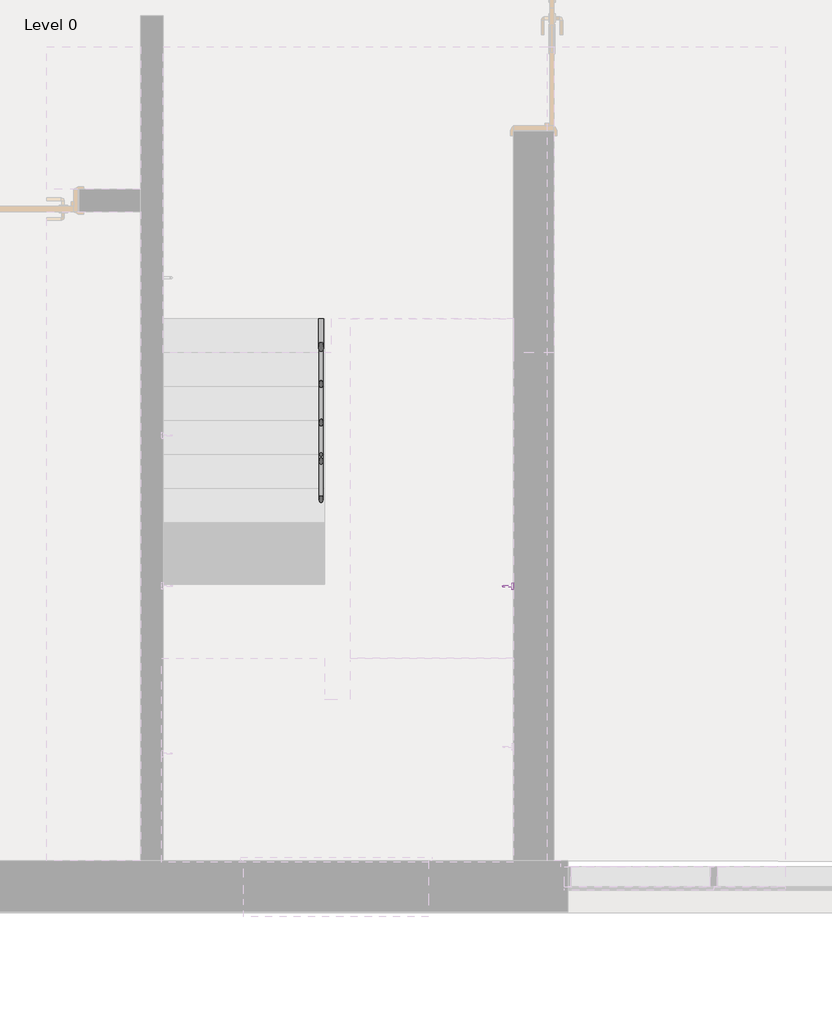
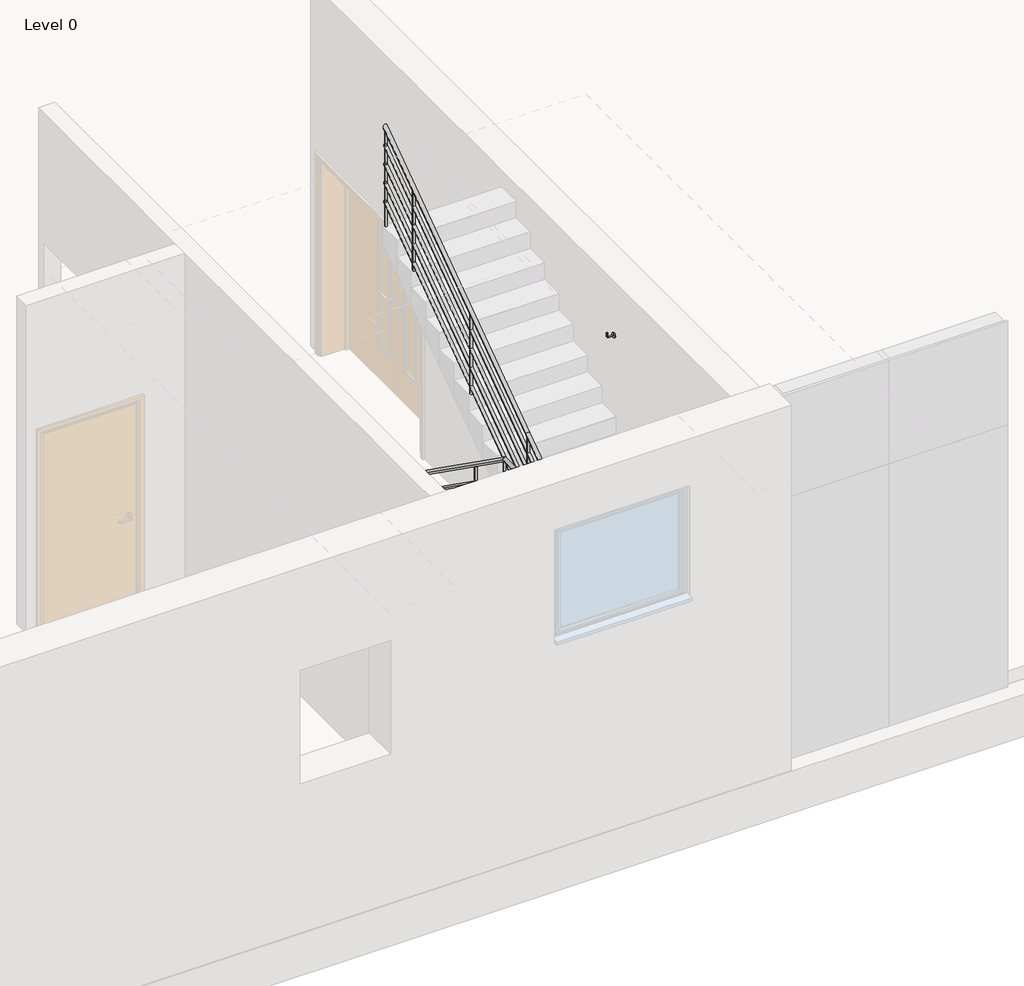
# One storey, part 11 of 14: 1 proxy, 1 railing.
"""IFC4 building model written with IfcOpenShell, lengths in millimetres."""

from ifc_helpers import new_model, si_unit, point, frame, frame_2d, origin, place, context, project, spatial, circle_curve, ellipse_curve, trimmed, segment, composite_curve, outline, extrude, transform, mapped, element, save
from ifc_brep_helpers import plane_surface, cylinder_surface, advanced_brep
from components import support_metal_circular_support_metal_circular_016e83f0

model = new_model("IFC4")

# Units and contexts
model_context = context("Model", 3, world=origin())
ifc_project = project(units=[si_unit("LENGTHUNIT", "METRE", prefix="MILLI")], contexts=[model_context])

# Site, building, storey
site = spatial("IfcSite", under=ifc_project)
building = spatial("IfcBuilding", under=site)
storey = spatial("IfcBuildingStorey", under=building, Name="Level 0", Elevation=0.0)

# Proxy
placement = place(None, origin())
support_metal_circular_support_metal_circular_shape = support_metal_circular_support_metal_circular_016e83f0(model_context)
element("IfcBuildingElementProxy", 1, Name="Support - Metal - Circular : Support - Metal - Circular", ObjectType="Support - Metal - Circular : Support - Metal - Circular", at=placement, inside=storey, context=model_context, shape_type="MappedRepresentation", body=[
    mapped(support_metal_circular_support_metal_circular_shape, transform((7761.8000023, 2330.7111848, 3385.714432), x_axis=(0.0, -1.0, 0.0), y_axis=(1.0, 0.0, 0.0), z_axis=(0.0, 0.0, 1.0))),
])

# Railing
element("IfcRailing", 2, ObjectType="900mm_Pipe", at=placement, inside=storey, context=model_context, shape_type="SolidModel", body=[
    advanced_brep(
    [(6401.8000024, 4300.0, 1052.7548977), (6441.8000024, 4300.0, 1052.7548977), (6401.8000024, 1793.6287019, 2830.0), (6441.8000024, 1793.6287019, 2830.0), (6401.8000024, 1454.6, 2830.0), (6441.8000024, 1494.6, 2830.0), (6682.6000025, 1454.6, 2830.0), (6642.6000025, 1494.6, 2830.0), (6682.6000025, 1556.3712981, 2830.0), (6642.6000025, 1556.3712981, 2830.0), (6682.6000025, 1811.5685755, 3010.9580695), (6642.6000025, 1811.5685755, 3010.9580695), (6682.6000025, 4300.0, 4775.4821704), (6642.6000025, 4300.0, 4775.4821704)],
    [
        (0, 1, ellipse_curve(frame((6421.8000024, 4300.0, 1052.7548977), z_axis=(0.0, 1.0, 0.0), x_axis=(0.0, 0.0, -1.0)), 24.5178296, 20.0)),
        (1, 0, ellipse_curve(frame((6421.8000024, 4300.0, 1052.7548977), z_axis=(0.0, 1.0, 0.0), x_axis=(0.0, 0.0, -1.0)), 24.5178296, 20.0)),
        (0, 2),
        (2, 3, ellipse_curve(frame((6421.8000024, 1793.6287019, 2830.0), z_axis=(0.0, 0.9528202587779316, -0.30353509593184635), x_axis=(0.0, -0.30353509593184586, -0.952820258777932)), 20.9903178, 20.0)),
        (3, 1),
        (3, 2, ellipse_curve(frame((6421.8000024, 1793.6287019, 2830.0), z_axis=(0.0, 0.9528202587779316, -0.30353509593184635), x_axis=(0.0, -0.30353509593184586, -0.952820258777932)), 20.9903178, 20.0)),
        (2, 4),
        (4, 5, ellipse_curve(frame((6421.8000024, 1474.6, 2830.0), z_axis=(-0.7071067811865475, 0.7071067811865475, 0.0), x_axis=(0.7071067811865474, 0.7071067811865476, 0.0)), 28.2842712, 20.0)),
        (5, 3),
        (5, 4, ellipse_curve(frame((6421.8000024, 1474.6, 2830.0), z_axis=(-0.7071067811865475, 0.7071067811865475, 0.0), x_axis=(0.7071067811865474, 0.7071067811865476, 0.0)), 28.2842712, 20.0)),
        (4, 6),
        (6, 7, ellipse_curve(frame((6662.6000025, 1474.6, 2830.0), z_axis=(-0.7071067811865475, -0.7071067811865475, 0.0), x_axis=(-0.7071067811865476, 0.7071067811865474, 0.0)), 28.2842712, 20.0)),
        (7, 5),
        (7, 6, ellipse_curve(frame((6662.6000025, 1474.6, 2830.0), z_axis=(-0.7071067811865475, -0.7071067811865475, 0.0), x_axis=(-0.7071067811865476, 0.7071067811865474, 0.0)), 28.2842712, 20.0)),
        (6, 8),
        (8, 9, ellipse_curve(frame((6662.6000025, 1556.3712981, 2830.0), z_axis=(0.0, -0.9528202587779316, -0.30353509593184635), x_axis=(0.0, -0.3035350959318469, 0.9528202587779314)), 20.9903178, 20.0)),
        (9, 7),
        (9, 8, ellipse_curve(frame((6662.6000025, 1556.3712981, 2830.0), z_axis=(0.0, -0.9528202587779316, -0.30353509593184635), x_axis=(0.0, -0.3035350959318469, 0.9528202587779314)), 20.9903178, 20.0)),
        (8, 10),
        (10, 11, circle_curve(frame((6662.6000025, 1811.5685755, 3010.9580695), z_axis=(0.0, -0.8157328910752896, -0.5784287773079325), x_axis=(-1.0, 0.0, 0.0)), 20.0)),
        (11, 9),
        (11, 10, circle_curve(frame((6662.6000025, 1811.5685755, 3010.9580695), z_axis=(0.0, -0.8157328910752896, -0.5784287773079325), x_axis=(-1.0, 0.0, 0.0)), 20.0)),
        (12, 13, ellipse_curve(frame((6662.6000025, 4300.0, 4775.4821704), z_axis=(0.0, 1.0, 0.0), x_axis=(0.0, 0.0, -1.0)), 24.5178296, 20.0)),
        (13, 12, ellipse_curve(frame((6662.6000025, 4300.0, 4775.4821704), z_axis=(0.0, 1.0, 0.0), x_axis=(0.0, 0.0, -1.0)), 24.5178296, 20.0)),
        (10, 12),
        (13, 11),
    ],
    [
        plane_surface(frame((6421.8000024, 4300.0, 1077.2727273), z_axis=(0.0, 1.0, 0.0), x_axis=(0.0, 0.0, -1.0))),
        cylinder_surface(frame((6421.8000024, 4288.4314245, 1060.9580695), z_axis=(0.0, 0.8157328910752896, -0.5784287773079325), x_axis=(1.0, 0.0, 0.0)), 20.0),
        cylinder_surface(frame((6421.8000024, 1800.0, 2830.0), z_axis=(0.0, 1.0, 0.0), x_axis=(1.0, 0.0, 0.0)), 20.0),
        cylinder_surface(frame((6421.8000024, 1474.6, 2830.0), z_axis=(-1.0, 0.0, 0.0), x_axis=(0.0, 1.0, 0.0)), 20.0),
        cylinder_surface(frame((6662.6000025, 1474.6, 2830.0), z_axis=(0.0, -1.0, 0.0), x_axis=(-1.0, 0.0, 0.0)), 20.0),
        cylinder_surface(frame((6662.6000025, 1561.5685755, 2833.6853422), z_axis=(0.0, -0.8157328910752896, -0.5784287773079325), x_axis=(-1.0, 0.0, 0.0)), 20.0),
        plane_surface(frame((6662.6000025, 4300.0, 4800.0), z_axis=(0.0, 1.0, 0.0), x_axis=(0.0, 0.0, 1.0))),
        cylinder_surface(frame((6662.6000025, 1811.5685755, 3010.9580695), z_axis=(0.0, -0.8157328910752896, -0.5784287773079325), x_axis=(-1.0, 0.0, 0.0)), 20.0),
    ],
    [
        (0, [[1, 2]]),
        (1, [[-1, 3, 4, 5]]),
        (1, [[-2, -5, 6, -3]]),
        (2, [[-4, 7, 8, 9]]),
        (2, [[-6, -9, 10, -7]]),
        (3, [[-8, 11, 12, 13]]),
        (3, [[-10, -13, 14, -11]]),
        (4, [[-12, 15, 16, 17]]),
        (4, [[-14, -17, 18, -15]]),
        (5, [[-16, 19, 20, 21]]),
        (5, [[-18, -21, 22, -19]]),
        (6, [[23, 24]]),
        (7, [[-20, 25, -24, 26]]),
        (7, [[-22, -26, -23, -25]]),
    ],
),
    advanced_brep(
    [(6406.8000024, 4300.0, 858.8843551), (6436.8000024, 4300.0, 858.8843551), (6406.8000024, 1800.0, 2631.6116278), (6436.8000024, 1800.0, 2631.6116278)],
    [
        (0, 1, ellipse_curve(frame((6421.8000024, 4300.0, 858.8843551), z_axis=(0.0, 1.0, 0.0), x_axis=(0.0, 0.0, -1.0)), 18.3883722, 15.0)),
        (1, 0, ellipse_curve(frame((6421.8000024, 4300.0, 858.8843551), z_axis=(0.0, 1.0, 0.0), x_axis=(0.0, 0.0, -1.0)), 18.3883722, 15.0)),
        (2, 3, ellipse_curve(frame((6421.8000024, 1800.0, 2631.6116278), z_axis=(0.0, -1.0, 0.0), x_axis=(0.0, 0.0, -1.0)), 18.3883722, 15.0)),
        (3, 2, ellipse_curve(frame((6421.8000024, 1800.0, 2631.6116278), z_axis=(0.0, -1.0, 0.0), x_axis=(0.0, 0.0, -1.0)), 18.3883722, 15.0)),
        (0, 2),
        (3, 1),
    ],
    [
        plane_surface(frame((6421.8000024, 4300.0, 877.2727273), z_axis=(0.0, 1.0, 0.0), x_axis=(0.0, 0.0, -1.0))),
        plane_surface(frame((6421.8000024, 1800.0, 2650.0), z_axis=(0.0, -1.0, 0.0), x_axis=(0.0, 0.0, -1.0))),
        cylinder_surface(frame((6421.8000024, 4291.3235683, 865.0367339), z_axis=(0.0, 0.8157328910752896, -0.5784287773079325), x_axis=(1.0, 0.0, 0.0)), 15.0),
    ],
    [
        (0, [[1, 2]]),
        (1, [[3, 4]]),
        (2, [[-1, 5, -4, 6]]),
        (2, [[-2, -6, -3, -5]]),
    ],
),
    advanced_brep(
    [(6406.8000024, 1800.0, 2635.0), (6436.8000024, 1800.0, 2635.0), (6406.8000024, 1489.6, 2635.0), (6436.8000024, 1489.6, 2635.0)],
    [
        (0, 1, circle_curve(frame((6421.8000024, 1800.0, 2635.0), z_axis=(0.0, 1.0, 0.0), x_axis=(1.0, 0.0, 0.0)), 15.0)),
        (1, 0, circle_curve(frame((6421.8000024, 1800.0, 2635.0), z_axis=(0.0, 1.0, 0.0), x_axis=(1.0, 0.0, 0.0)), 15.0)),
        (2, 3, circle_curve(frame((6421.8000024, 1489.6, 2635.0), z_axis=(0.0, -1.0, 0.0), x_axis=(1.0, 0.0, 0.0)), 15.0)),
        (3, 2, circle_curve(frame((6421.8000024, 1489.6, 2635.0), z_axis=(0.0, -1.0, 0.0), x_axis=(1.0, 0.0, 0.0)), 15.0)),
        (0, 2),
        (3, 1),
    ],
    [
        plane_surface(frame((6421.8000024, 1800.0, 2650.0), z_axis=(0.0, 1.0, 0.0), x_axis=(0.0, 0.0, -1.0))),
        plane_surface(frame((6421.8000024, 1489.6, 2650.0), z_axis=(0.0, -1.0, 0.0), x_axis=(0.0, 0.0, -1.0))),
        cylinder_surface(frame((6421.8000024, 1800.0, 2635.0), z_axis=(0.0, 1.0, 0.0), x_axis=(1.0, 0.0, 0.0)), 15.0),
    ],
    [
        (0, [[1, 2]]),
        (1, [[3, 4]]),
        (2, [[-1, 5, -4, 6]]),
        (2, [[-2, -6, -3, -5]]),
    ],
),
    advanced_brep(
    [(6406.8000024, 1459.6, 2635.0), (6406.8000024, 1489.6, 2635.0), (6647.6000025, 1459.6, 2635.0), (6647.6000025, 1489.6, 2635.0)],
    [
        (0, 1, circle_curve(frame((6406.8000024, 1474.6, 2635.0), z_axis=(-1.0, 0.0, 0.0), x_axis=(0.0, 1.0, 0.0)), 15.0)),
        (1, 0, circle_curve(frame((6406.8000024, 1474.6, 2635.0), z_axis=(-1.0, 0.0, 0.0), x_axis=(0.0, 1.0, 0.0)), 15.0)),
        (2, 3, circle_curve(frame((6647.6000025, 1474.6, 2635.0), z_axis=(1.0, 0.0, 0.0), x_axis=(0.0, 1.0, 0.0)), 15.0)),
        (3, 2, circle_curve(frame((6647.6000025, 1474.6, 2635.0), z_axis=(1.0, 0.0, 0.0), x_axis=(0.0, 1.0, 0.0)), 15.0)),
        (0, 2),
        (3, 1),
    ],
    [
        plane_surface(frame((6406.8000024, 1474.6, 2650.0), z_axis=(-1.0, 0.0, 0.0), x_axis=(0.0, 1.0, 0.0))),
        plane_surface(frame((6647.6000025, 1474.6, 2650.0), z_axis=(1.0, 0.0, 0.0), x_axis=(0.0, 1.0, 0.0))),
        cylinder_surface(frame((6406.8000024, 1474.6, 2635.0), z_axis=(-1.0, 0.0, 0.0), x_axis=(0.0, 1.0, 0.0)), 15.0),
    ],
    [
        (0, [[1, 2]]),
        (1, [[3, 4]]),
        (2, [[-1, 5, -4, 6]]),
        (2, [[-2, -6, -3, -5]]),
    ],
),
    advanced_brep(
    [(6677.6000025, 1459.6, 2635.0), (6647.6000025, 1459.6, 2635.0), (6677.6000025, 1554.7784736, 2635.0), (6647.6000025, 1554.7784736, 2635.0), (6677.6000025, 1800.0, 2808.8843551), (6647.6000025, 1800.0, 2808.8843551)],
    [
        (0, 1, circle_curve(frame((6662.6000025, 1459.6, 2635.0), z_axis=(0.0, -1.0, 0.0), x_axis=(-1.0, 0.0, 0.0)), 15.0)),
        (1, 0, circle_curve(frame((6662.6000025, 1459.6, 2635.0), z_axis=(0.0, -1.0, 0.0), x_axis=(-1.0, 0.0, 0.0)), 15.0)),
        (0, 2),
        (2, 3, ellipse_curve(frame((6662.6000025, 1554.7784736, 2635.0), z_axis=(0.0, -0.9528202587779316, -0.3035350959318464), x_axis=(0.0, -0.3035350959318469, 0.9528202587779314)), 15.7427383, 15.0)),
        (3, 1),
        (3, 2, ellipse_curve(frame((6662.6000025, 1554.7784736, 2635.0), z_axis=(0.0, -0.9528202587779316, -0.3035350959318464), x_axis=(0.0, -0.3035350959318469, 0.9528202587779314)), 15.7427383, 15.0)),
        (4, 5, ellipse_curve(frame((6662.6000025, 1800.0, 2808.8843551), z_axis=(0.0, 1.0, 0.0), x_axis=(0.0, 0.0, -1.0)), 18.3883722, 15.0)),
        (5, 4, ellipse_curve(frame((6662.6000025, 1800.0, 2808.8843551), z_axis=(0.0, 1.0, 0.0), x_axis=(0.0, 0.0, -1.0)), 18.3883722, 15.0)),
        (2, 4),
        (5, 3),
    ],
    [
        plane_surface(frame((6662.6000025, 1459.6, 2650.0), z_axis=(0.0, -1.0, 0.0), x_axis=(0.0, 0.0, 1.0))),
        cylinder_surface(frame((6662.6000025, 1459.6, 2635.0), z_axis=(0.0, -1.0, 0.0), x_axis=(-1.0, 0.0, 0.0)), 15.0),
        plane_surface(frame((6662.6000025, 1800.0, 2827.2727273), z_axis=(0.0, 1.0, 0.0), x_axis=(0.0, 0.0, 1.0))),
        cylinder_surface(frame((6662.6000025, 1558.6764317, 2637.7640066), z_axis=(0.0, -0.8157328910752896, -0.5784287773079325), x_axis=(-1.0, 0.0, 0.0)), 15.0),
    ],
    [
        (0, [[1, 2]]),
        (1, [[-1, 3, 4, 5]]),
        (1, [[-2, -5, 6, -3]]),
        (2, [[7, 8]]),
        (3, [[-4, 9, -8, 10]]),
        (3, [[-6, -10, -7, -9]]),
    ],
),
    advanced_brep(
    [(6677.6000025, 1800.0, 2808.8843551), (6647.6000025, 1800.0, 2808.8843551), (6677.6000025, 4300.0, 4581.6116278), (6647.6000025, 4300.0, 4581.6116278)],
    [
        (0, 1, ellipse_curve(frame((6662.6000025, 1800.0, 2808.8843551), z_axis=(0.0, -1.0, 0.0), x_axis=(0.0, 0.0, -1.0)), 18.3883722, 15.0)),
        (1, 0, ellipse_curve(frame((6662.6000025, 1800.0, 2808.8843551), z_axis=(0.0, -1.0, 0.0), x_axis=(0.0, 0.0, -1.0)), 18.3883722, 15.0)),
        (2, 3, ellipse_curve(frame((6662.6000025, 4300.0, 4581.6116278), z_axis=(0.0, 1.0, 0.0), x_axis=(0.0, 0.0, -1.0)), 18.3883722, 15.0)),
        (3, 2, ellipse_curve(frame((6662.6000025, 4300.0, 4581.6116278), z_axis=(0.0, 1.0, 0.0), x_axis=(0.0, 0.0, -1.0)), 18.3883722, 15.0)),
        (0, 2),
        (3, 1),
    ],
    [
        plane_surface(frame((6662.6000025, 1800.0, 2827.2727273), z_axis=(0.0, -1.0, 0.0), x_axis=(0.0, 0.0, 1.0))),
        plane_surface(frame((6662.6000025, 4300.0, 4600.0), z_axis=(0.0, 1.0, 0.0), x_axis=(0.0, 0.0, 1.0))),
        cylinder_surface(frame((6662.6000025, 1808.6764317, 2815.0367339), z_axis=(0.0, -0.8157328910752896, -0.5784287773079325), x_axis=(-1.0, 0.0, 0.0)), 15.0),
    ],
    [
        (0, [[1, 2]]),
        (1, [[3, 4]]),
        (2, [[-1, 5, -4, 6]]),
        (2, [[-2, -6, -3, -5]]),
    ],
),
    advanced_brep(
    [(6406.8000024, 4300.0, 658.8843551), (6436.8000024, 4300.0, 658.8843551), (6406.8000024, 1800.0, 2431.6116278), (6436.8000024, 1800.0, 2431.6116278)],
    [
        (0, 1, ellipse_curve(frame((6421.8000024, 4300.0, 658.8843551), z_axis=(0.0, 1.0, 0.0), x_axis=(0.0, 0.0, -1.0)), 18.3883722, 15.0)),
        (1, 0, ellipse_curve(frame((6421.8000024, 4300.0, 658.8843551), z_axis=(0.0, 1.0, 0.0), x_axis=(0.0, 0.0, -1.0)), 18.3883722, 15.0)),
        (2, 3, ellipse_curve(frame((6421.8000024, 1800.0, 2431.6116278), z_axis=(0.0, -1.0, 0.0), x_axis=(0.0, 0.0, -1.0)), 18.3883722, 15.0)),
        (3, 2, ellipse_curve(frame((6421.8000024, 1800.0, 2431.6116278), z_axis=(0.0, -1.0, 0.0), x_axis=(0.0, 0.0, -1.0)), 18.3883722, 15.0)),
        (0, 2),
        (3, 1),
    ],
    [
        plane_surface(frame((6421.8000024, 4300.0, 677.2727273), z_axis=(0.0, 1.0, 0.0), x_axis=(0.0, 0.0, -1.0))),
        plane_surface(frame((6421.8000024, 1800.0, 2450.0), z_axis=(0.0, -1.0, 0.0), x_axis=(0.0, 0.0, -1.0))),
        cylinder_surface(frame((6421.8000024, 4291.3235683, 665.0367339), z_axis=(0.0, 0.8157328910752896, -0.5784287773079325), x_axis=(1.0, 0.0, 0.0)), 15.0),
    ],
    [
        (0, [[1, 2]]),
        (1, [[3, 4]]),
        (2, [[-1, 5, -4, 6]]),
        (2, [[-2, -6, -3, -5]]),
    ],
),
    advanced_brep(
    [(6406.8000024, 1800.0, 2435.0), (6436.8000024, 1800.0, 2435.0), (6406.8000024, 1489.6, 2435.0), (6436.8000024, 1489.6, 2435.0)],
    [
        (0, 1, circle_curve(frame((6421.8000024, 1800.0, 2435.0), z_axis=(0.0, 1.0, 0.0), x_axis=(1.0, 0.0, 0.0)), 15.0)),
        (1, 0, circle_curve(frame((6421.8000024, 1800.0, 2435.0), z_axis=(0.0, 1.0, 0.0), x_axis=(1.0, 0.0, 0.0)), 15.0)),
        (2, 3, circle_curve(frame((6421.8000024, 1489.6, 2435.0), z_axis=(0.0, -1.0, 0.0), x_axis=(1.0, 0.0, 0.0)), 15.0)),
        (3, 2, circle_curve(frame((6421.8000024, 1489.6, 2435.0), z_axis=(0.0, -1.0, 0.0), x_axis=(1.0, 0.0, 0.0)), 15.0)),
        (0, 2),
        (3, 1),
    ],
    [
        plane_surface(frame((6421.8000024, 1800.0, 2450.0), z_axis=(0.0, 1.0, 0.0), x_axis=(0.0, 0.0, -1.0))),
        plane_surface(frame((6421.8000024, 1489.6, 2450.0), z_axis=(0.0, -1.0, 0.0), x_axis=(0.0, 0.0, -1.0))),
        cylinder_surface(frame((6421.8000024, 1800.0, 2435.0), z_axis=(0.0, 1.0, 0.0), x_axis=(1.0, 0.0, 0.0)), 15.0),
    ],
    [
        (0, [[1, 2]]),
        (1, [[3, 4]]),
        (2, [[-1, 5, -4, 6]]),
        (2, [[-2, -6, -3, -5]]),
    ],
),
    advanced_brep(
    [(6406.8000024, 1459.6, 2435.0), (6406.8000024, 1489.6, 2435.0), (6647.6000025, 1459.6, 2435.0), (6647.6000025, 1489.6, 2435.0)],
    [
        (0, 1, circle_curve(frame((6406.8000024, 1474.6, 2435.0), z_axis=(-1.0, 0.0, 0.0), x_axis=(0.0, 1.0, 0.0)), 15.0)),
        (1, 0, circle_curve(frame((6406.8000024, 1474.6, 2435.0), z_axis=(-1.0, 0.0, 0.0), x_axis=(0.0, 1.0, 0.0)), 15.0)),
        (2, 3, circle_curve(frame((6647.6000025, 1474.6, 2435.0), z_axis=(1.0, 0.0, 0.0), x_axis=(0.0, 1.0, 0.0)), 15.0)),
        (3, 2, circle_curve(frame((6647.6000025, 1474.6, 2435.0), z_axis=(1.0, 0.0, 0.0), x_axis=(0.0, 1.0, 0.0)), 15.0)),
        (0, 2),
        (3, 1),
    ],
    [
        plane_surface(frame((6406.8000024, 1474.6, 2450.0), z_axis=(-1.0, 0.0, 0.0), x_axis=(0.0, 1.0, 0.0))),
        plane_surface(frame((6647.6000025, 1474.6, 2450.0), z_axis=(1.0, 0.0, 0.0), x_axis=(0.0, 1.0, 0.0))),
        cylinder_surface(frame((6406.8000024, 1474.6, 2435.0), z_axis=(-1.0, 0.0, 0.0), x_axis=(0.0, 1.0, 0.0)), 15.0),
    ],
    [
        (0, [[1, 2]]),
        (1, [[3, 4]]),
        (2, [[-1, 5, -4, 6]]),
        (2, [[-2, -6, -3, -5]]),
    ],
),
    advanced_brep(
    [(6677.6000025, 1459.6, 2435.0), (6647.6000025, 1459.6, 2435.0), (6677.6000025, 1554.7784736, 2435.0), (6647.6000025, 1554.7784736, 2435.0), (6677.6000025, 1800.0, 2608.8843551), (6647.6000025, 1800.0, 2608.8843551)],
    [
        (0, 1, circle_curve(frame((6662.6000025, 1459.6, 2435.0), z_axis=(0.0, -1.0, 0.0), x_axis=(-1.0, 0.0, 0.0)), 15.0)),
        (1, 0, circle_curve(frame((6662.6000025, 1459.6, 2435.0), z_axis=(0.0, -1.0, 0.0), x_axis=(-1.0, 0.0, 0.0)), 15.0)),
        (0, 2),
        (2, 3, ellipse_curve(frame((6662.6000025, 1554.7784736, 2435.0), z_axis=(0.0, -0.9528202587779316, -0.3035350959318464), x_axis=(0.0, -0.3035350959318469, 0.9528202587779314)), 15.7427383, 15.0)),
        (3, 1),
        (3, 2, ellipse_curve(frame((6662.6000025, 1554.7784736, 2435.0), z_axis=(0.0, -0.9528202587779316, -0.3035350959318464), x_axis=(0.0, -0.3035350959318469, 0.9528202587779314)), 15.7427383, 15.0)),
        (4, 5, ellipse_curve(frame((6662.6000025, 1800.0, 2608.8843551), z_axis=(0.0, 1.0, 0.0), x_axis=(0.0, 0.0, -1.0)), 18.3883722, 15.0)),
        (5, 4, ellipse_curve(frame((6662.6000025, 1800.0, 2608.8843551), z_axis=(0.0, 1.0, 0.0), x_axis=(0.0, 0.0, -1.0)), 18.3883722, 15.0)),
        (2, 4),
        (5, 3),
    ],
    [
        plane_surface(frame((6662.6000025, 1459.6, 2450.0), z_axis=(0.0, -1.0, 0.0), x_axis=(0.0, 0.0, 1.0))),
        cylinder_surface(frame((6662.6000025, 1459.6, 2435.0), z_axis=(0.0, -1.0, 0.0), x_axis=(-1.0, 0.0, 0.0)), 15.0),
        plane_surface(frame((6662.6000025, 1800.0, 2627.2727273), z_axis=(0.0, 1.0, 0.0), x_axis=(0.0, 0.0, 1.0))),
        cylinder_surface(frame((6662.6000025, 1558.6764317, 2437.7640066), z_axis=(0.0, -0.8157328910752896, -0.5784287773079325), x_axis=(-1.0, 0.0, 0.0)), 15.0),
    ],
    [
        (0, [[1, 2]]),
        (1, [[-1, 3, 4, 5]]),
        (1, [[-2, -5, 6, -3]]),
        (2, [[7, 8]]),
        (3, [[-4, 9, -8, 10]]),
        (3, [[-6, -10, -7, -9]]),
    ],
),
    advanced_brep(
    [(6677.6000025, 1800.0, 2608.8843551), (6647.6000025, 1800.0, 2608.8843551), (6677.6000025, 4300.0, 4381.6116278), (6647.6000025, 4300.0, 4381.6116278)],
    [
        (0, 1, ellipse_curve(frame((6662.6000025, 1800.0, 2608.8843551), z_axis=(0.0, -1.0, 0.0), x_axis=(0.0, 0.0, -1.0)), 18.3883722, 15.0)),
        (1, 0, ellipse_curve(frame((6662.6000025, 1800.0, 2608.8843551), z_axis=(0.0, -1.0, 0.0), x_axis=(0.0, 0.0, -1.0)), 18.3883722, 15.0)),
        (2, 3, ellipse_curve(frame((6662.6000025, 4300.0, 4381.6116278), z_axis=(0.0, 1.0, 0.0), x_axis=(0.0, 0.0, -1.0)), 18.3883722, 15.0)),
        (3, 2, ellipse_curve(frame((6662.6000025, 4300.0, 4381.6116278), z_axis=(0.0, 1.0, 0.0), x_axis=(0.0, 0.0, -1.0)), 18.3883722, 15.0)),
        (0, 2),
        (3, 1),
    ],
    [
        plane_surface(frame((6662.6000025, 1800.0, 2627.2727273), z_axis=(0.0, -1.0, 0.0), x_axis=(0.0, 0.0, 1.0))),
        plane_surface(frame((6662.6000025, 4300.0, 4400.0), z_axis=(0.0, 1.0, 0.0), x_axis=(0.0, 0.0, 1.0))),
        cylinder_surface(frame((6662.6000025, 1808.6764317, 2615.0367339), z_axis=(0.0, -0.8157328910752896, -0.5784287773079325), x_axis=(-1.0, 0.0, 0.0)), 15.0),
    ],
    [
        (0, [[1, 2]]),
        (1, [[3, 4]]),
        (2, [[-1, 5, -4, 6]]),
        (2, [[-2, -6, -3, -5]]),
    ],
),
    advanced_brep(
    [(6406.8000024, 4300.0, 458.8843551), (6436.8000024, 4300.0, 458.8843551), (6406.8000024, 1800.0, 2231.6116278), (6436.8000024, 1800.0, 2231.6116278)],
    [
        (0, 1, ellipse_curve(frame((6421.8000024, 4300.0, 458.8843551), z_axis=(0.0, 1.0, 0.0), x_axis=(0.0, 0.0, -1.0)), 18.3883722, 15.0)),
        (1, 0, ellipse_curve(frame((6421.8000024, 4300.0, 458.8843551), z_axis=(0.0, 1.0, 0.0), x_axis=(0.0, 0.0, -1.0)), 18.3883722, 15.0)),
        (2, 3, ellipse_curve(frame((6421.8000024, 1800.0, 2231.6116278), z_axis=(0.0, -1.0, 0.0), x_axis=(0.0, 0.0, -1.0)), 18.3883722, 15.0)),
        (3, 2, ellipse_curve(frame((6421.8000024, 1800.0, 2231.6116278), z_axis=(0.0, -1.0, 0.0), x_axis=(0.0, 0.0, -1.0)), 18.3883722, 15.0)),
        (0, 2),
        (3, 1),
    ],
    [
        plane_surface(frame((6421.8000024, 4300.0, 477.2727273), z_axis=(0.0, 1.0, 0.0), x_axis=(0.0, 0.0, -1.0))),
        plane_surface(frame((6421.8000024, 1800.0, 2250.0), z_axis=(0.0, -1.0, 0.0), x_axis=(0.0, 0.0, -1.0))),
        cylinder_surface(frame((6421.8000024, 4291.3235683, 465.0367339), z_axis=(0.0, 0.8157328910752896, -0.5784287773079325), x_axis=(1.0, 0.0, 0.0)), 15.0),
    ],
    [
        (0, [[1, 2]]),
        (1, [[3, 4]]),
        (2, [[-1, 5, -4, 6]]),
        (2, [[-2, -6, -3, -5]]),
    ],
),
    advanced_brep(
    [(6406.8000024, 1800.0, 2235.0), (6436.8000024, 1800.0, 2235.0), (6406.8000024, 1489.6, 2235.0), (6436.8000024, 1489.6, 2235.0)],
    [
        (0, 1, circle_curve(frame((6421.8000024, 1800.0, 2235.0), z_axis=(0.0, 1.0, 0.0), x_axis=(1.0, 0.0, 0.0)), 15.0)),
        (1, 0, circle_curve(frame((6421.8000024, 1800.0, 2235.0), z_axis=(0.0, 1.0, 0.0), x_axis=(1.0, 0.0, 0.0)), 15.0)),
        (2, 3, circle_curve(frame((6421.8000024, 1489.6, 2235.0), z_axis=(0.0, -1.0, 0.0), x_axis=(1.0, 0.0, 0.0)), 15.0)),
        (3, 2, circle_curve(frame((6421.8000024, 1489.6, 2235.0), z_axis=(0.0, -1.0, 0.0), x_axis=(1.0, 0.0, 0.0)), 15.0)),
        (0, 2),
        (3, 1),
    ],
    [
        plane_surface(frame((6421.8000024, 1800.0, 2250.0), z_axis=(0.0, 1.0, 0.0), x_axis=(0.0, 0.0, -1.0))),
        plane_surface(frame((6421.8000024, 1489.6, 2250.0), z_axis=(0.0, -1.0, 0.0), x_axis=(0.0, 0.0, -1.0))),
        cylinder_surface(frame((6421.8000024, 1800.0, 2235.0), z_axis=(0.0, 1.0, 0.0), x_axis=(1.0, 0.0, 0.0)), 15.0),
    ],
    [
        (0, [[1, 2]]),
        (1, [[3, 4]]),
        (2, [[-1, 5, -4, 6]]),
        (2, [[-2, -6, -3, -5]]),
    ],
),
    advanced_brep(
    [(6406.8000024, 1459.6, 2235.0), (6406.8000024, 1489.6, 2235.0), (6647.6000025, 1459.6, 2235.0), (6647.6000025, 1489.6, 2235.0)],
    [
        (0, 1, circle_curve(frame((6406.8000024, 1474.6, 2235.0), z_axis=(-1.0, 0.0, 0.0), x_axis=(0.0, 1.0, 0.0)), 15.0)),
        (1, 0, circle_curve(frame((6406.8000024, 1474.6, 2235.0), z_axis=(-1.0, 0.0, 0.0), x_axis=(0.0, 1.0, 0.0)), 15.0)),
        (2, 3, circle_curve(frame((6647.6000025, 1474.6, 2235.0), z_axis=(1.0, 0.0, 0.0), x_axis=(0.0, 1.0, 0.0)), 15.0)),
        (3, 2, circle_curve(frame((6647.6000025, 1474.6, 2235.0), z_axis=(1.0, 0.0, 0.0), x_axis=(0.0, 1.0, 0.0)), 15.0)),
        (0, 2),
        (3, 1),
    ],
    [
        plane_surface(frame((6406.8000024, 1474.6, 2250.0), z_axis=(-1.0, 0.0, 0.0), x_axis=(0.0, 1.0, 0.0))),
        plane_surface(frame((6647.6000025, 1474.6, 2250.0), z_axis=(1.0, 0.0, 0.0), x_axis=(0.0, 1.0, 0.0))),
        cylinder_surface(frame((6406.8000024, 1474.6, 2235.0), z_axis=(-1.0, 0.0, 0.0), x_axis=(0.0, 1.0, 0.0)), 15.0),
    ],
    [
        (0, [[1, 2]]),
        (1, [[3, 4]]),
        (2, [[-1, 5, -4, 6]]),
        (2, [[-2, -6, -3, -5]]),
    ],
),
    advanced_brep(
    [(6677.6000025, 1459.6, 2235.0), (6647.6000025, 1459.6, 2235.0), (6677.6000025, 1554.7784736, 2235.0), (6647.6000025, 1554.7784736, 2235.0), (6677.6000025, 1800.0, 2408.8843551), (6647.6000025, 1800.0, 2408.8843551)],
    [
        (0, 1, circle_curve(frame((6662.6000025, 1459.6, 2235.0), z_axis=(0.0, -1.0, 0.0), x_axis=(-1.0, 0.0, 0.0)), 15.0)),
        (1, 0, circle_curve(frame((6662.6000025, 1459.6, 2235.0), z_axis=(0.0, -1.0, 0.0), x_axis=(-1.0, 0.0, 0.0)), 15.0)),
        (0, 2),
        (2, 3, ellipse_curve(frame((6662.6000025, 1554.7784736, 2235.0), z_axis=(0.0, -0.9528202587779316, -0.3035350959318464), x_axis=(0.0, -0.3035350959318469, 0.9528202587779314)), 15.7427383, 15.0)),
        (3, 1),
        (3, 2, ellipse_curve(frame((6662.6000025, 1554.7784736, 2235.0), z_axis=(0.0, -0.9528202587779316, -0.3035350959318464), x_axis=(0.0, -0.3035350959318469, 0.9528202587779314)), 15.7427383, 15.0)),
        (4, 5, ellipse_curve(frame((6662.6000025, 1800.0, 2408.8843551), z_axis=(0.0, 1.0, 0.0), x_axis=(0.0, 0.0, -1.0)), 18.3883722, 15.0)),
        (5, 4, ellipse_curve(frame((6662.6000025, 1800.0, 2408.8843551), z_axis=(0.0, 1.0, 0.0), x_axis=(0.0, 0.0, -1.0)), 18.3883722, 15.0)),
        (2, 4),
        (5, 3),
    ],
    [
        plane_surface(frame((6662.6000025, 1459.6, 2250.0), z_axis=(0.0, -1.0, 0.0), x_axis=(0.0, 0.0, 1.0))),
        cylinder_surface(frame((6662.6000025, 1459.6, 2235.0), z_axis=(0.0, -1.0, 0.0), x_axis=(-1.0, 0.0, 0.0)), 15.0),
        plane_surface(frame((6662.6000025, 1800.0, 2427.2727273), z_axis=(0.0, 1.0, 0.0), x_axis=(0.0, 0.0, 1.0))),
        cylinder_surface(frame((6662.6000025, 1558.6764317, 2237.7640066), z_axis=(0.0, -0.8157328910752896, -0.5784287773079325), x_axis=(-1.0, 0.0, 0.0)), 15.0),
    ],
    [
        (0, [[1, 2]]),
        (1, [[-1, 3, 4, 5]]),
        (1, [[-2, -5, 6, -3]]),
        (2, [[7, 8]]),
        (3, [[-4, 9, -8, 10]]),
        (3, [[-6, -10, -7, -9]]),
    ],
),
    advanced_brep(
    [(6677.6000025, 1800.0, 2408.8843551), (6647.6000025, 1800.0, 2408.8843551), (6677.6000025, 4300.0, 4181.6116278), (6647.6000025, 4300.0, 4181.6116278)],
    [
        (0, 1, ellipse_curve(frame((6662.6000025, 1800.0, 2408.8843551), z_axis=(0.0, -1.0, 0.0), x_axis=(0.0, 0.0, -1.0)), 18.3883722, 15.0)),
        (1, 0, ellipse_curve(frame((6662.6000025, 1800.0, 2408.8843551), z_axis=(0.0, -1.0, 0.0), x_axis=(0.0, 0.0, -1.0)), 18.3883722, 15.0)),
        (2, 3, ellipse_curve(frame((6662.6000025, 4300.0, 4181.6116278), z_axis=(0.0, 1.0, 0.0), x_axis=(0.0, 0.0, -1.0)), 18.3883722, 15.0)),
        (3, 2, ellipse_curve(frame((6662.6000025, 4300.0, 4181.6116278), z_axis=(0.0, 1.0, 0.0), x_axis=(0.0, 0.0, -1.0)), 18.3883722, 15.0)),
        (0, 2),
        (3, 1),
    ],
    [
        plane_surface(frame((6662.6000025, 1800.0, 2427.2727273), z_axis=(0.0, -1.0, 0.0), x_axis=(0.0, 0.0, 1.0))),
        plane_surface(frame((6662.6000025, 4300.0, 4200.0), z_axis=(0.0, 1.0, 0.0), x_axis=(0.0, 0.0, 1.0))),
        cylinder_surface(frame((6662.6000025, 1808.6764317, 2415.0367339), z_axis=(0.0, -0.8157328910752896, -0.5784287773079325), x_axis=(-1.0, 0.0, 0.0)), 15.0),
    ],
    [
        (0, [[1, 2]]),
        (1, [[3, 4]]),
        (2, [[-1, 5, -4, 6]]),
        (2, [[-2, -6, -3, -5]]),
    ],
),
    advanced_brep(
    [(6406.8000024, 4300.0, 258.8843551), (6436.8000024, 4300.0, 258.8843551), (6406.8000024, 1800.0, 2031.6116278), (6436.8000024, 1800.0, 2031.6116278)],
    [
        (0, 1, ellipse_curve(frame((6421.8000024, 4300.0, 258.8843551), z_axis=(0.0, 1.0, 0.0), x_axis=(0.0, 0.0, -1.0)), 18.3883722, 15.0)),
        (1, 0, ellipse_curve(frame((6421.8000024, 4300.0, 258.8843551), z_axis=(0.0, 1.0, 0.0), x_axis=(0.0, 0.0, -1.0)), 18.3883722, 15.0)),
        (2, 3, ellipse_curve(frame((6421.8000024, 1800.0, 2031.6116278), z_axis=(0.0, -1.0, 0.0), x_axis=(0.0, 0.0, -1.0)), 18.3883722, 15.0)),
        (3, 2, ellipse_curve(frame((6421.8000024, 1800.0, 2031.6116278), z_axis=(0.0, -1.0, 0.0), x_axis=(0.0, 0.0, -1.0)), 18.3883722, 15.0)),
        (0, 2),
        (3, 1),
    ],
    [
        plane_surface(frame((6421.8000024, 4300.0, 277.2727273), z_axis=(0.0, 1.0, 0.0), x_axis=(0.0, 0.0, -1.0))),
        plane_surface(frame((6421.8000024, 1800.0, 2050.0), z_axis=(0.0, -1.0, 0.0), x_axis=(0.0, 0.0, -1.0))),
        cylinder_surface(frame((6421.8000024, 4291.3235683, 265.0367339), z_axis=(0.0, 0.8157328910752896, -0.5784287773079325), x_axis=(1.0, 0.0, 0.0)), 15.0),
    ],
    [
        (0, [[1, 2]]),
        (1, [[3, 4]]),
        (2, [[-1, 5, -4, 6]]),
        (2, [[-2, -6, -3, -5]]),
    ],
),
    advanced_brep(
    [(6406.8000024, 1800.0, 2035.0), (6436.8000024, 1800.0, 2035.0), (6406.8000024, 1489.6, 2035.0), (6436.8000024, 1489.6, 2035.0)],
    [
        (0, 1, circle_curve(frame((6421.8000024, 1800.0, 2035.0), z_axis=(0.0, 1.0, 0.0), x_axis=(1.0, 0.0, 0.0)), 15.0)),
        (1, 0, circle_curve(frame((6421.8000024, 1800.0, 2035.0), z_axis=(0.0, 1.0, 0.0), x_axis=(1.0, 0.0, 0.0)), 15.0)),
        (2, 3, circle_curve(frame((6421.8000024, 1489.6, 2035.0), z_axis=(0.0, -1.0, 0.0), x_axis=(1.0, 0.0, 0.0)), 15.0)),
        (3, 2, circle_curve(frame((6421.8000024, 1489.6, 2035.0), z_axis=(0.0, -1.0, 0.0), x_axis=(1.0, 0.0, 0.0)), 15.0)),
        (0, 2),
        (3, 1),
    ],
    [
        plane_surface(frame((6421.8000024, 1800.0, 2050.0), z_axis=(0.0, 1.0, 0.0), x_axis=(0.0, 0.0, -1.0))),
        plane_surface(frame((6421.8000024, 1489.6, 2050.0), z_axis=(0.0, -1.0, 0.0), x_axis=(0.0, 0.0, -1.0))),
        cylinder_surface(frame((6421.8000024, 1800.0, 2035.0), z_axis=(0.0, 1.0, 0.0), x_axis=(1.0, 0.0, 0.0)), 15.0),
    ],
    [
        (0, [[1, 2]]),
        (1, [[3, 4]]),
        (2, [[-1, 5, -4, 6]]),
        (2, [[-2, -6, -3, -5]]),
    ],
),
    advanced_brep(
    [(6406.8000024, 1459.6, 2035.0), (6406.8000024, 1489.6, 2035.0), (6647.6000025, 1459.6, 2035.0), (6647.6000025, 1489.6, 2035.0)],
    [
        (0, 1, circle_curve(frame((6406.8000024, 1474.6, 2035.0), z_axis=(-1.0, 0.0, 0.0), x_axis=(0.0, 1.0, 0.0)), 15.0)),
        (1, 0, circle_curve(frame((6406.8000024, 1474.6, 2035.0), z_axis=(-1.0, 0.0, 0.0), x_axis=(0.0, 1.0, 0.0)), 15.0)),
        (2, 3, circle_curve(frame((6647.6000025, 1474.6, 2035.0), z_axis=(1.0, 0.0, 0.0), x_axis=(0.0, 1.0, 0.0)), 15.0)),
        (3, 2, circle_curve(frame((6647.6000025, 1474.6, 2035.0), z_axis=(1.0, 0.0, 0.0), x_axis=(0.0, 1.0, 0.0)), 15.0)),
        (0, 2),
        (3, 1),
    ],
    [
        plane_surface(frame((6406.8000024, 1474.6, 2050.0), z_axis=(-1.0, 0.0, 0.0), x_axis=(0.0, 1.0, 0.0))),
        plane_surface(frame((6647.6000025, 1474.6, 2050.0), z_axis=(1.0, 0.0, 0.0), x_axis=(0.0, 1.0, 0.0))),
        cylinder_surface(frame((6406.8000024, 1474.6, 2035.0), z_axis=(-1.0, 0.0, 0.0), x_axis=(0.0, 1.0, 0.0)), 15.0),
    ],
    [
        (0, [[1, 2]]),
        (1, [[3, 4]]),
        (2, [[-1, 5, -4, 6]]),
        (2, [[-2, -6, -3, -5]]),
    ],
),
    advanced_brep(
    [(6677.6000025, 1459.6, 2035.0), (6647.6000025, 1459.6, 2035.0), (6677.6000025, 1554.7784736, 2035.0), (6647.6000025, 1554.7784736, 2035.0), (6677.6000025, 1800.0, 2208.8843551), (6647.6000025, 1800.0, 2208.8843551)],
    [
        (0, 1, circle_curve(frame((6662.6000025, 1459.6, 2035.0), z_axis=(0.0, -1.0, 0.0), x_axis=(-1.0, 0.0, 0.0)), 15.0)),
        (1, 0, circle_curve(frame((6662.6000025, 1459.6, 2035.0), z_axis=(0.0, -1.0, 0.0), x_axis=(-1.0, 0.0, 0.0)), 15.0)),
        (0, 2),
        (2, 3, ellipse_curve(frame((6662.6000025, 1554.7784736, 2035.0), z_axis=(0.0, -0.9528202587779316, -0.3035350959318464), x_axis=(0.0, -0.3035350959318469, 0.9528202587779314)), 15.7427383, 15.0)),
        (3, 1),
        (3, 2, ellipse_curve(frame((6662.6000025, 1554.7784736, 2035.0), z_axis=(0.0, -0.9528202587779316, -0.3035350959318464), x_axis=(0.0, -0.3035350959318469, 0.9528202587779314)), 15.7427383, 15.0)),
        (4, 5, ellipse_curve(frame((6662.6000025, 1800.0, 2208.8843551), z_axis=(0.0, 1.0, 0.0), x_axis=(0.0, 0.0, -1.0)), 18.3883722, 15.0)),
        (5, 4, ellipse_curve(frame((6662.6000025, 1800.0, 2208.8843551), z_axis=(0.0, 1.0, 0.0), x_axis=(0.0, 0.0, -1.0)), 18.3883722, 15.0)),
        (2, 4),
        (5, 3),
    ],
    [
        plane_surface(frame((6662.6000025, 1459.6, 2050.0), z_axis=(0.0, -1.0, 0.0), x_axis=(0.0, 0.0, 1.0))),
        cylinder_surface(frame((6662.6000025, 1459.6, 2035.0), z_axis=(0.0, -1.0, 0.0), x_axis=(-1.0, 0.0, 0.0)), 15.0),
        plane_surface(frame((6662.6000025, 1800.0, 2227.2727273), z_axis=(0.0, 1.0, 0.0), x_axis=(0.0, 0.0, 1.0))),
        cylinder_surface(frame((6662.6000025, 1558.6764317, 2037.7640066), z_axis=(0.0, -0.8157328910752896, -0.5784287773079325), x_axis=(-1.0, 0.0, 0.0)), 15.0),
    ],
    [
        (0, [[1, 2]]),
        (1, [[-1, 3, 4, 5]]),
        (1, [[-2, -5, 6, -3]]),
        (2, [[7, 8]]),
        (3, [[-4, 9, -8, 10]]),
        (3, [[-6, -10, -7, -9]]),
    ],
),
    advanced_brep(
    [(6677.6000025, 1800.0, 2208.8843551), (6647.6000025, 1800.0, 2208.8843551), (6677.6000025, 4300.0, 3981.6116278), (6647.6000025, 4300.0, 3981.6116278)],
    [
        (0, 1, ellipse_curve(frame((6662.6000025, 1800.0, 2208.8843551), z_axis=(0.0, -1.0, 0.0), x_axis=(0.0, 0.0, -1.0)), 18.3883722, 15.0)),
        (1, 0, ellipse_curve(frame((6662.6000025, 1800.0, 2208.8843551), z_axis=(0.0, -1.0, 0.0), x_axis=(0.0, 0.0, -1.0)), 18.3883722, 15.0)),
        (2, 3, ellipse_curve(frame((6662.6000025, 4300.0, 3981.6116278), z_axis=(0.0, 1.0, 0.0), x_axis=(0.0, 0.0, -1.0)), 18.3883722, 15.0)),
        (3, 2, ellipse_curve(frame((6662.6000025, 4300.0, 3981.6116278), z_axis=(0.0, 1.0, 0.0), x_axis=(0.0, 0.0, -1.0)), 18.3883722, 15.0)),
        (0, 2),
        (3, 1),
    ],
    [
        plane_surface(frame((6662.6000025, 1800.0, 2227.2727273), z_axis=(0.0, -1.0, 0.0), x_axis=(0.0, 0.0, 1.0))),
        plane_surface(frame((6662.6000025, 4300.0, 4000.0), z_axis=(0.0, 1.0, 0.0), x_axis=(0.0, 0.0, 1.0))),
        cylinder_surface(frame((6662.6000025, 1808.6764317, 2215.0367339), z_axis=(0.0, -0.8157328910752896, -0.5784287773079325), x_axis=(-1.0, 0.0, 0.0)), 15.0),
    ],
    [
        (0, [[1, 2]]),
        (1, [[3, 4]]),
        (2, [[-1, 5, -4, 6]]),
        (2, [[-2, -6, -3, -5]]),
    ],
),
    advanced_brep(
    [(6650.1000025, 3800.0, 4396.4188863), (6675.1000025, 3800.0, 4396.4188863), (6675.1000025, 3800.0, 3545.4545455), (6650.1000025, 3800.0, 3545.4545455)],
    [
        (0, 1, ellipse_curve(frame((6662.6000025, 3800.0, 4396.4188863), z_axis=(0.0, 0.5784287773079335, -0.8157328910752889), x_axis=(0.0, 0.8157328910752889, 0.5784287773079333)), 15.3236435, 12.5)),
        (1, 2),
        (2, 3, circle_curve(frame((6662.6000025, 3800.0, 3545.4545455), z_axis=(0.0, 0.0, 1.0), x_axis=(1.0, 0.0, 0.0)), 12.5)),
        (3, 0),
        (3, 2, circle_curve(frame((6662.6000025, 3800.0, 3545.4545455), z_axis=(0.0, 0.0, 1.0), x_axis=(1.0, 0.0, 0.0)), 12.5)),
        (1, 0, ellipse_curve(frame((6662.6000025, 3800.0, 4396.4188863), z_axis=(0.0, 0.5784287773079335, -0.8157328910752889), x_axis=(0.0, 0.8157328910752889, 0.5784287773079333)), 15.3236435, 12.5)),
    ],
    [
        cylinder_surface(frame((6662.6000025, 3800.0, 3445.4545455), z_axis=(0.0, 0.0, 1.0), x_axis=(1.0, 0.0, 0.0)), 12.5),
        plane_surface(frame((6687.6000025, 3825.0, 4414.146159), z_axis=(0.0, -0.5784287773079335, 0.8157328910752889), x_axis=(-1.0, 0.0, 0.0))),
        plane_surface(frame((6687.6000025, 3775.0, 3545.4545455), z_axis=(0.0, 0.0, -1.0), x_axis=(-1.0, 0.0, 0.0))),
    ],
    [
        (0, [[1, 2, 3, 4]]),
        (0, [[5, -2, 6, -4]]),
        (1, [[-6, -1]]),
        (2, [[-5, -3]]),
    ],
),
    advanced_brep(
    [(6650.1000025, 2800.0, 3687.3279772), (6675.1000025, 2800.0, 3687.3279772), (6675.1000025, 2800.0, 2836.3636364), (6650.1000025, 2800.0, 2836.3636364)],
    [
        (0, 1, ellipse_curve(frame((6662.6000025, 2800.0, 3687.3279772), z_axis=(0.0, 0.5784287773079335, -0.8157328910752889), x_axis=(0.0, 0.8157328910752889, 0.5784287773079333)), 15.3236435, 12.5)),
        (1, 2),
        (2, 3, circle_curve(frame((6662.6000025, 2800.0, 2836.3636364), z_axis=(0.0, 0.0, 1.0), x_axis=(1.0, 0.0, 0.0)), 12.5)),
        (3, 0),
        (3, 2, circle_curve(frame((6662.6000025, 2800.0, 2836.3636364), z_axis=(0.0, 0.0, 1.0), x_axis=(1.0, 0.0, 0.0)), 12.5)),
        (1, 0, ellipse_curve(frame((6662.6000025, 2800.0, 3687.3279772), z_axis=(0.0, 0.5784287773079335, -0.8157328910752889), x_axis=(0.0, 0.8157328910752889, 0.5784287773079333)), 15.3236435, 12.5)),
    ],
    [
        cylinder_surface(frame((6662.6000025, 2800.0, 2736.3636364), z_axis=(0.0, 0.0, 1.0), x_axis=(1.0, 0.0, 0.0)), 12.5),
        plane_surface(frame((6687.6000025, 2825.0, 3705.0552499), z_axis=(0.0, -0.5784287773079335, 0.8157328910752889), x_axis=(-1.0, 0.0, 0.0))),
        plane_surface(frame((6687.6000025, 2775.0, 2836.3636364), z_axis=(0.0, 0.0, -1.0), x_axis=(-1.0, 0.0, 0.0))),
    ],
    [
        (0, [[1, 2, 3, 4]]),
        (0, [[5, -2, 6, -4]]),
        (1, [[-6, -1]]),
        (2, [[-5, -3]]),
    ],
),
    advanced_brep(
    [(6434.3000024, 2300.0, 2446.4188863), (6409.3000024, 2300.0, 2446.4188863), (6409.3000024, 2300.0, 1595.4545455), (6434.3000024, 2300.0, 1595.4545455)],
    [
        (0, 1, ellipse_curve(frame((6421.8000024, 2300.0, 2446.4188863), z_axis=(0.0, -0.5784287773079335, -0.8157328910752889), x_axis=(0.0, -0.8157328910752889, 0.5784287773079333)), 15.3236435, 12.5)),
        (1, 2),
        (2, 3, circle_curve(frame((6421.8000024, 2300.0, 1595.4545455), z_axis=(0.0, 0.0, 1.0), x_axis=(-1.0, 0.0, 0.0)), 12.5)),
        (3, 0),
        (3, 2, circle_curve(frame((6421.8000024, 2300.0, 1595.4545455), z_axis=(0.0, 0.0, 1.0), x_axis=(-1.0, 0.0, 0.0)), 12.5)),
        (1, 0, ellipse_curve(frame((6421.8000024, 2300.0, 2446.4188863), z_axis=(0.0, -0.5784287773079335, -0.8157328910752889), x_axis=(0.0, -0.8157328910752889, 0.5784287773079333)), 15.3236435, 12.5)),
    ],
    [
        cylinder_surface(frame((6421.8000024, 2300.0, 1495.4545455), z_axis=(0.0, 0.0, 1.0), x_axis=(-1.0, 0.0, 0.0)), 12.5),
        plane_surface(frame((6396.8000024, 2275.0, 2464.146159), z_axis=(0.0, 0.5784287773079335, 0.8157328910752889), x_axis=(1.0, 0.0, 0.0))),
        plane_surface(frame((6396.8000024, 2325.0, 1595.4545455), z_axis=(0.0, 0.0, -1.0), x_axis=(1.0, 0.0, 0.0))),
    ],
    [
        (0, [[1, 2, 3, 4]]),
        (0, [[5, -2, 6, -4]]),
        (1, [[-6, -1]]),
        (2, [[-5, -3]]),
    ],
),
    advanced_brep(
    [(6434.3000024, 3300.0, 1737.3279772), (6409.3000024, 3300.0, 1737.3279772), (6409.3000024, 3300.0, 886.3636364), (6434.3000024, 3300.0, 886.3636364)],
    [
        (0, 1, ellipse_curve(frame((6421.8000024, 3300.0, 1737.3279772), z_axis=(0.0, -0.5784287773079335, -0.8157328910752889), x_axis=(0.0, -0.8157328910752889, 0.5784287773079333)), 15.3236435, 12.5)),
        (1, 2),
        (2, 3, circle_curve(frame((6421.8000024, 3300.0, 886.3636364), z_axis=(0.0, 0.0, 1.0), x_axis=(-1.0, 0.0, 0.0)), 12.5)),
        (3, 0),
        (3, 2, circle_curve(frame((6421.8000024, 3300.0, 886.3636364), z_axis=(0.0, 0.0, 1.0), x_axis=(-1.0, 0.0, 0.0)), 12.5)),
        (1, 0, ellipse_curve(frame((6421.8000024, 3300.0, 1737.3279772), z_axis=(0.0, -0.5784287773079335, -0.8157328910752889), x_axis=(0.0, -0.8157328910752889, 0.5784287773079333)), 15.3236435, 12.5)),
    ],
    [
        cylinder_surface(frame((6421.8000024, 3300.0, 786.3636364), z_axis=(0.0, 0.0, 1.0), x_axis=(-1.0, 0.0, 0.0)), 12.5),
        plane_surface(frame((6396.8000024, 3275.0, 1755.0552499), z_axis=(0.0, 0.5784287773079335, 0.8157328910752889), x_axis=(1.0, 0.0, 0.0))),
        plane_surface(frame((6396.8000024, 3325.0, 886.3636364), z_axis=(0.0, 0.0, -1.0), x_axis=(1.0, 0.0, 0.0))),
    ],
    [
        (0, [[1, 2, 3, 4]]),
        (0, [[5, -2, 6, -4]]),
        (1, [[-6, -1]]),
        (2, [[-5, -3]]),
    ],
),
    advanced_brep(
    [(6650.1000025, 1800.0, 2978.2370681), (6675.1000025, 1800.0, 2978.2370681), (6675.1000025, 1800.0, 1950.0), (6650.1000025, 1800.0, 1950.0)],
    [
        (0, 1, ellipse_curve(frame((6662.6000025, 1800.0, 2978.2370681), z_axis=(0.0, 0.5784287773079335, -0.8157328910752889), x_axis=(0.0, 0.8157328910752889, 0.5784287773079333)), 15.3236435, 12.5)),
        (1, 2),
        (2, 3, circle_curve(frame((6662.6000025, 1800.0, 1950.0), z_axis=(0.0, 0.0, 1.0), x_axis=(1.0, 0.0, 0.0)), 12.5)),
        (3, 0),
        (3, 2, circle_curve(frame((6662.6000025, 1800.0, 1950.0), z_axis=(0.0, 0.0, 1.0), x_axis=(1.0, 0.0, 0.0)), 12.5)),
        (1, 0, ellipse_curve(frame((6662.6000025, 1800.0, 2978.2370681), z_axis=(0.0, 0.5784287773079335, -0.8157328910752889), x_axis=(0.0, 0.8157328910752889, 0.5784287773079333)), 15.3236435, 12.5)),
    ],
    [
        cylinder_surface(frame((6662.6000025, 1800.0, 1850.0), z_axis=(0.0, 0.0, 1.0), x_axis=(1.0, 0.0, 0.0)), 12.5),
        plane_surface(frame((6687.6000025, 1825.0, 2995.9643409), z_axis=(0.0, -0.5784287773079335, 0.8157328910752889), x_axis=(-1.0, 0.0, 0.0))),
        plane_surface(frame((6687.6000025, 1775.0, 1950.0), z_axis=(0.0, 0.0, -1.0), x_axis=(-1.0, 0.0, 0.0))),
    ],
    [
        (0, [[1, 2, 3, 4]]),
        (0, [[5, -2, 6, -4]]),
        (1, [[-6, -1]]),
        (2, [[-5, -3]]),
    ],
),
    extrude(outline(composite_curve([segment(trimmed(circle_curve(frame_2d((6662.6000025, 1474.6)), 12.5), [point((6662.6000025, 1462.1))], [point((6662.6000025, 1487.1))], False, "CARTESIAN"), True, "CONTINUOUS"), segment(trimmed(circle_curve(frame_2d((6662.6000025, 1474.6)), 12.5), [point((6662.6000025, 1487.1))], [point((6662.6000025, 1462.1))], False, "CARTESIAN"), True, "CONTINUOUS")], self_intersect=False)), frame((0.0, 0.0, 1950.0), z_axis=(0.0, 0.0, 1.0), x_axis=(1.0, 0.0, 0.0)), (0.0, 0.0, 1.0), 860.0),
    extrude(outline(composite_curve([segment(trimmed(circle_curve(frame_2d((6421.8000024, 1474.6)), 12.5), [point((6409.3000024, 1474.6))], [point((6434.3000024, 1474.6))], False, "CARTESIAN"), True, "CONTINUOUS"), segment(trimmed(circle_curve(frame_2d((6421.8000024, 1474.6)), 12.5), [point((6434.3000024, 1474.6))], [point((6409.3000024, 1474.6))], False, "CARTESIAN"), True, "CONTINUOUS")], self_intersect=False)), frame((0.0, 0.0, 1950.0), z_axis=(0.0, 0.0, 1.0), x_axis=(1.0, 0.0, 0.0)), (0.0, 0.0, 1.0), 860.0),
    advanced_brep(
    [(6434.3000024, 1800.0, 2800.9643409), (6409.3000024, 1800.0, 2800.9643409), (6409.3000024, 1800.0, 1950.0), (6434.3000024, 1800.0, 1950.0)],
    [
        (0, 1, ellipse_curve(frame((6421.8000024, 1800.0, 2800.9643409), z_axis=(0.0, -0.5784287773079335, -0.8157328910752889), x_axis=(0.0, -0.8157328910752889, 0.5784287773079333)), 15.3236435, 12.5)),
        (1, 2),
        (2, 3, circle_curve(frame((6421.8000024, 1800.0, 1950.0), z_axis=(0.0, 0.0, 1.0), x_axis=(-1.0, 0.0, 0.0)), 12.5)),
        (3, 0),
        (3, 2, circle_curve(frame((6421.8000024, 1800.0, 1950.0), z_axis=(0.0, 0.0, 1.0), x_axis=(-1.0, 0.0, 0.0)), 12.5)),
        (1, 0, ellipse_curve(frame((6421.8000024, 1800.0, 2800.9643409), z_axis=(0.0, -0.5784287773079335, -0.8157328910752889), x_axis=(0.0, -0.8157328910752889, 0.5784287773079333)), 15.3236435, 12.5)),
    ],
    [
        cylinder_surface(frame((6421.8000024, 1800.0, 1850.0), z_axis=(0.0, 0.0, 1.0), x_axis=(-1.0, 0.0, 0.0)), 12.5),
        plane_surface(frame((6396.8000024, 1775.0, 2818.6916136), z_axis=(0.0, 0.5784287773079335, 0.8157328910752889), x_axis=(1.0, 0.0, 0.0))),
        plane_surface(frame((6396.8000024, 1825.0, 1950.0), z_axis=(0.0, 0.0, -1.0), x_axis=(1.0, 0.0, 0.0))),
    ],
    [
        (0, [[1, 2, 3, 4]]),
        (0, [[5, -2, 6, -4]]),
        (1, [[-6, -1]]),
        (2, [[-5, -3]]),
    ],
),
    advanced_brep(
    [(6650.1000025, 4287.5, 4742.1007045), (6675.1000025, 4287.5, 4742.1007045), (6675.1000025, 4287.5, 3722.7272727), (6650.1000025, 4287.5, 3722.7272727)],
    [
        (0, 1, ellipse_curve(frame((6662.6000025, 4287.5, 4742.1007045), z_axis=(0.0, 0.5784287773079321, -0.81573289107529), x_axis=(0.0, 0.8157328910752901, 0.5784287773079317)), 15.3236435, 12.5)),
        (1, 2),
        (2, 3, circle_curve(frame((6662.6000025, 4287.5, 3722.7272727), z_axis=(0.0, 0.0, 1.0), x_axis=(1.0, 0.0, 0.0)), 12.5)),
        (3, 0),
        (3, 2, circle_curve(frame((6662.6000025, 4287.5, 3722.7272727), z_axis=(0.0, 0.0, 1.0), x_axis=(1.0, 0.0, 0.0)), 12.5)),
        (1, 0, ellipse_curve(frame((6662.6000025, 4287.5, 4742.1007045), z_axis=(0.0, 0.5784287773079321, -0.81573289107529), x_axis=(0.0, 0.8157328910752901, 0.5784287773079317)), 15.3236435, 12.5)),
    ],
    [
        cylinder_surface(frame((6662.6000025, 4287.5, 3622.7272727), z_axis=(0.0, 0.0, 1.0), x_axis=(1.0, 0.0, 0.0)), 12.5),
        plane_surface(frame((6687.6000025, 4312.5, 4759.8279772), z_axis=(0.0, -0.5784287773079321, 0.81573289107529), x_axis=(-1.0, 0.0, 0.0))),
        plane_surface(frame((6687.6000025, 4262.5, 3722.7272727), z_axis=(0.0, 0.0, -1.0), x_axis=(-1.0, 0.0, 0.0))),
    ],
    [
        (0, [[1, 2, 3, 4]]),
        (0, [[5, -2, 6, -4]]),
        (1, [[-6, -1]]),
        (2, [[-5, -3]]),
    ],
),
    advanced_brep(
    [(6434.3000024, 4287.5, 1037.1007045), (6409.3000024, 4287.5, 1037.1007045), (6409.3000024, 4287.5, 177.2727273), (6434.3000024, 4287.5, 177.2727273)],
    [
        (0, 1, ellipse_curve(frame((6421.8000024, 4287.5, 1037.1007045), z_axis=(0.0, -0.5784287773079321, -0.81573289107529), x_axis=(0.0, -0.8157328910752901, 0.5784287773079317)), 15.3236435, 12.5)),
        (1, 2),
        (2, 3, circle_curve(frame((6421.8000024, 4287.5, 177.2727273), z_axis=(0.0, 0.0, 1.0), x_axis=(-1.0, 0.0, 0.0)), 12.5)),
        (3, 0),
        (3, 2, circle_curve(frame((6421.8000024, 4287.5, 177.2727273), z_axis=(0.0, 0.0, 1.0), x_axis=(-1.0, 0.0, 0.0)), 12.5)),
        (1, 0, ellipse_curve(frame((6421.8000024, 4287.5, 1037.1007045), z_axis=(0.0, -0.5784287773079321, -0.81573289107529), x_axis=(0.0, -0.8157328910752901, 0.5784287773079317)), 15.3236435, 12.5)),
    ],
    [
        cylinder_surface(frame((6421.8000024, 4287.5, 77.2727273), z_axis=(0.0, 0.0, 1.0), x_axis=(-1.0, 0.0, 0.0)), 12.5),
        plane_surface(frame((6396.8000024, 4262.5, 1054.8279772), z_axis=(0.0, 0.5784287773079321, 0.81573289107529), x_axis=(1.0, 0.0, 0.0))),
        plane_surface(frame((6396.8000024, 4312.5, 177.2727273), z_axis=(0.0, 0.0, -1.0), x_axis=(1.0, 0.0, 0.0))),
    ],
    [
        (0, [[1, 2, 3, 4]]),
        (0, [[5, -2, 6, -4]]),
        (1, [[-6, -1]]),
        (2, [[-5, -3]]),
    ],
),
])

save(model, "model.ifc")
